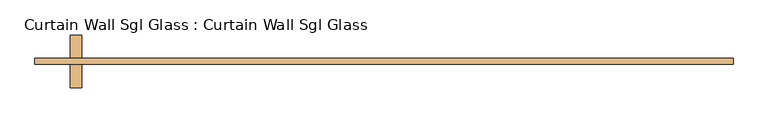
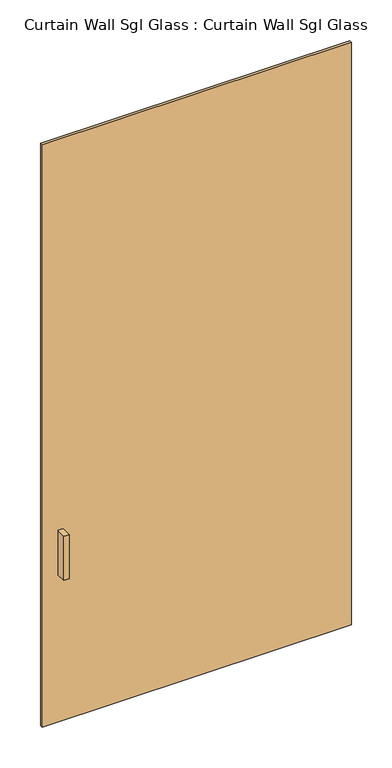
"""IFC4 building model written with IfcOpenShell, lengths in millimetres: door geometry, Curtain Wall Sgl Glass : Curtain Wall Sgl Glass."""

from ifc_helpers import new_model, si_unit, frame, origin, origin_with_axes, place, context, project, spatial, polyline, outline, extrude, source, transform, mapped, element, save


def curtain_wall_sgl_glass_curtain_wall_sgl_glass_fca7f741(model_context):
    return source(origin(), model_context, "Body", "SweptSolid", [
        extrude(outline(polyline([(-654.05, -12.7), (-679.45, -12.7), (-679.45, 38.1), (-654.05, 38.1), (-654.05, -12.7)])), frame((0.0, 0.0, 762.0), z_axis=(0.0, 0.0, 1.0), x_axis=(1.0, 0.0, 0.0)), (0.0, 0.0, 1.0), 228.6),
        extrude(outline(polyline([(-679.45, 101.6), (-654.05, 101.6), (-654.05, 50.8), (-679.45, 50.8), (-679.45, 101.6)])), frame((0.0, 0.0, 762.0), z_axis=(0.0, 0.0, 1.0), x_axis=(1.0, 0.0, 0.0)), (0.0, 0.0, 1.0), 228.6),
        extrude(outline(polyline([(755.65, 50.8), (755.65, 38.1), (-755.65, 38.1), (-755.65, 50.8), (755.65, 50.8)])), origin_with_axes(), (0.0, 0.0, 1.0), 3009.9),
    ])


if __name__ == "__main__":
    model = new_model("IFC4")
    model_context = context("Model", 3, world=origin())
    ifc_project = project(units=[si_unit("LENGTHUNIT", "METRE", prefix="MILLI")], contexts=[model_context])
    site = spatial("IfcSite", under=ifc_project)
    building = spatial("IfcBuilding", under=site)
    placement = place(None, origin())
    curtain_wall_sgl_glass_curtain_wall_sgl_glass_shape = curtain_wall_sgl_glass_curtain_wall_sgl_glass_fca7f741(model_context)
    element("IfcDoor", 1, ObjectType="Curtain Wall Sgl Glass : Curtain Wall Sgl Glass", at=placement, inside=building, context=model_context, shape_type="MappedRepresentation", body=[
        mapped(curtain_wall_sgl_glass_curtain_wall_sgl_glass_shape, transform((0.0, 0.0, 0.0), x_axis=(1.0, 0.0, 0.0), y_axis=(0.0, 1.0, 0.0), z_axis=(0.0, 0.0, 1.0))),
    ])
    save(model, "model.ifc")
